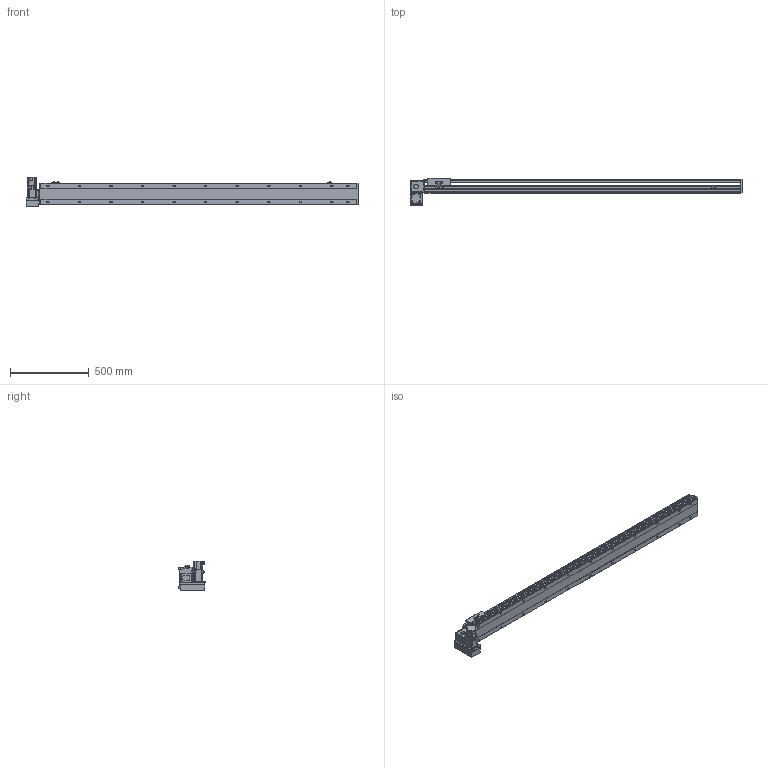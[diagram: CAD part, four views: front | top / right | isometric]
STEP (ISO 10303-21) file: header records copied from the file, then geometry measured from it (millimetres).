
FILE_DESCRIPTION( ( 'STEP AP214' ), '1' );
FILE_NAME( 'x:/temp/worker_6/temp/exporttempdir_5396_103_62aQ9/format_0/PBS140S-P40-S1750-LD-T40-C1-N(0).stp', '2022-06-09T00:25:49', ( 'License CC BY-ND 4.0' ), ( 'CADENAS' ), ' ', 'PARTsolutions', ' ' );
FILE_SCHEMA( ( 'AUTOMOTIVE_DESIGN { 1 0 10303 214 1 1 1 1 }' ) );
Length unit declared in the file: millimetre
Products named in the file (7): PBS140S-P40-S1750-LD-T40-C1-N(0); _PBS140S-S1750()_body; _PBS140ST-LD_motors; _T40-p1; _PBS140S_sliser; _PBS140S_plant; _PBS140S_sensor
Assembly tree (8 placements, depth 2):
  PBS140S-P40-S1750-LD-T40-C1-N(0)
    _PBS140S-S1750()_body
    _PBS140ST-LD_motors
    _T40-p1
    _PBS140S_sliser
    _PBS140S_plant
    _PBS140S_sensor  x3
Bounding box: 2104 x 172.5 x 189.7 mm (x, y, z)
Volume: 10454145.9 mm3; surface area: 1778216.2 mm2
Topology: 8 solids, 8 shells, 1147 faces, 3031 edges, 1983 vertices
Faces by surface type: plane 720, cylinder 369, cone 48, sphere 8, torus 2
Full cylindrical faces by diameter (mm): 3.242 x4, 4 x2, 4.134 x4, 4.4 x8, 4.5 x2, 4.8 x4, 4.917 x30, 5.5 x7, 6 x2, 7 x24, 7.5 x8, 8 x12, 8.5 x4, 10.5 x22, 14 x1, 30 x2, 50 x2
Entity records: 42262 total; most frequent: CARTESIAN_POINT 6910, DIRECTION 5558, ORIENTED_EDGE 5242, EDGE_CURVE 2621, AXIS2_PLACEMENT_3D 1949, VERTEX_POINT 1825, LINE 1660, VECTOR 1660
